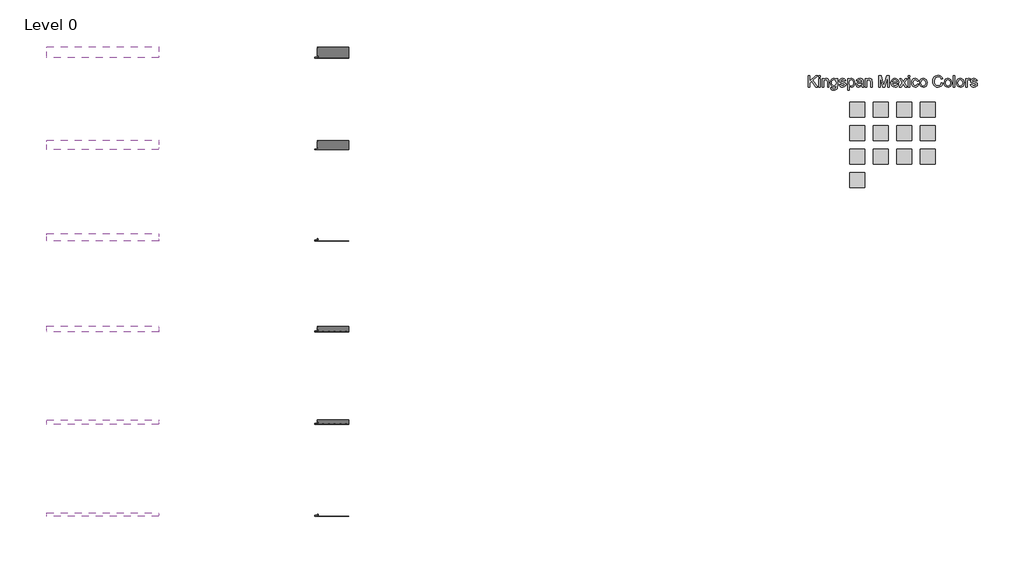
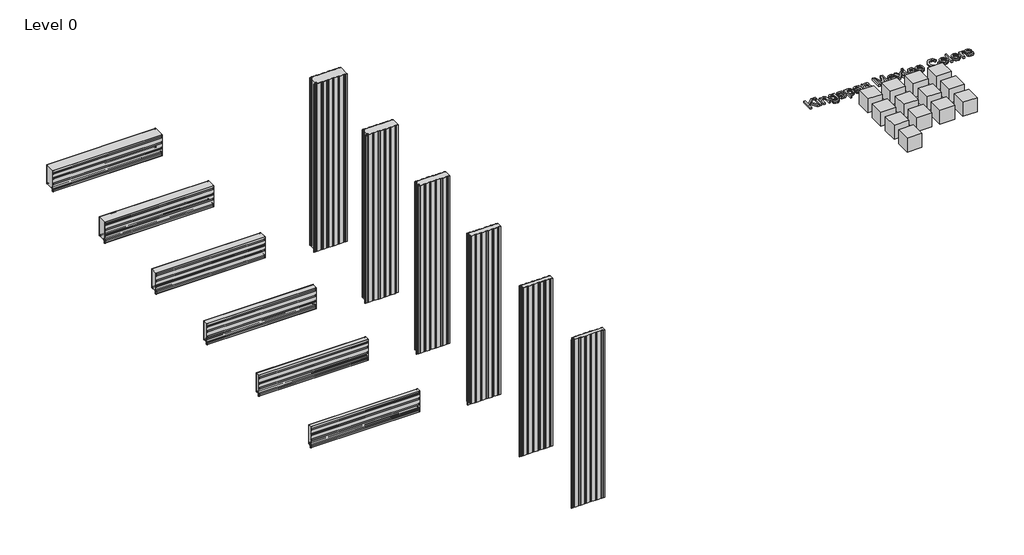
# One storey, incomplete: 14 proxies, 12 plates.
"""IFC4 building model written with IfcOpenShell, lengths in millimetres."""

from ifc_helpers import new_model, si_unit, origin, place, context, project, spatial, transform, mapped, element, save
from components import generic_models_94ed907e, ks_colour_sample_ks_colour_sample_0243efec, hz_050mm_5bb0dca9, hz_060mm_0e53f6a9, hz_075mm_a357266a, hz_100mm_cce7cdb2, hz_125mm_621c7a76, hz_150mm_8d4023c2, vt_050mm_9e8c6ad0, vt_060mm_d385d6ef, vt_075mm_737b0a10, vt_100mm_c336441d, vt_125mm_fb1efc63, vt_150mm_fdc8ce0f

model = new_model("IFC4")

# Units and contexts
model_context = context("Model", 3, world=origin())
ifc_project = project(units=[si_unit("LENGTHUNIT", "METRE", prefix="MILLI")], contexts=[model_context])

# Site, building, storey
site = spatial("IfcSite", under=ifc_project)
building = spatial("IfcBuilding", under=site)
storey = spatial("IfcBuildingStorey", under=building, Name="Level 0", Elevation=0.0)

# Proxies
placement = place(None, origin())
generic_models_shape = generic_models_94ed907e(model_context)
element("IfcBuildingElementProxy", 1, Name="KIP-MX_ColourRange_English : KIP-MX_ColourRange_English", ObjectType="KIP-MX_ColourRange_English : KIP-MX_ColourRange_English", at=placement, inside=storey, context=model_context, shape_type="MappedRepresentation", body=[
    mapped(generic_models_shape, transform((1966.0629502, 11802.7493823, 0.0), x_axis=(1.0, 0.0, 0.0), y_axis=(0.0, 1.0, 0.0), z_axis=(0.0, 0.0, 1.0))),
])
ks_colour_sample_ks_colour_sample_shape = ks_colour_sample_ks_colour_sample_0243efec(model_context)
element("IfcBuildingElementProxy", 2, Name="KS_Colour Sample : KS_Colour Sample", ObjectType="KS_Colour Sample : KS_Colour Sample", at=placement, inside=storey, context=model_context, shape_type="MappedRepresentation", body=[
    mapped(ks_colour_sample_ks_colour_sample_shape, transform((1501.0629502, 13781.2299273, 0.0), x_axis=(1.0, 0.0, 0.0), y_axis=(0.0, 1.0, 0.0), z_axis=(0.0, 0.0, 1.0))),
])
element("IfcBuildingElementProxy", 3, Name="KS_Colour Sample : KS_Colour Sample", ObjectType="KS_Colour Sample : KS_Colour Sample", at=placement, inside=storey, context=model_context, shape_type="MappedRepresentation", body=[
    mapped(ks_colour_sample_ks_colour_sample_shape, transform((1811.0629502, 13781.2299273, 0.0), x_axis=(1.0, 0.0, 0.0), y_axis=(0.0, 1.0, 0.0), z_axis=(0.0, 0.0, 1.0))),
])
element("IfcBuildingElementProxy", 4, Name="KS_Colour Sample : KS_Colour Sample", ObjectType="KS_Colour Sample : KS_Colour Sample", at=placement, inside=storey, context=model_context, shape_type="MappedRepresentation", body=[
    mapped(ks_colour_sample_ks_colour_sample_shape, transform((2121.0629502, 13781.2299273, 0.0), x_axis=(1.0, 0.0, 0.0), y_axis=(0.0, 1.0, 0.0), z_axis=(0.0, 0.0, 1.0))),
])
element("IfcBuildingElementProxy", 5, Name="KS_Colour Sample : KS_Colour Sample", ObjectType="KS_Colour Sample : KS_Colour Sample", at=placement, inside=storey, context=model_context, shape_type="MappedRepresentation", body=[
    mapped(ks_colour_sample_ks_colour_sample_shape, transform((2431.0629502, 13781.2299273, 0.0), x_axis=(1.0, 0.0, 0.0), y_axis=(0.0, 1.0, 0.0), z_axis=(0.0, 0.0, 1.0))),
])
element("IfcBuildingElementProxy", 6, Name="KS_Colour Sample : KS_Colour Sample", ObjectType="KS_Colour Sample : KS_Colour Sample", at=placement, inside=storey, context=model_context, shape_type="MappedRepresentation", body=[
    mapped(ks_colour_sample_ks_colour_sample_shape, transform((1501.0629502, 13471.2299273, 0.0), x_axis=(1.0, 0.0, 0.0), y_axis=(0.0, 1.0, 0.0), z_axis=(0.0, 0.0, 1.0))),
])
element("IfcBuildingElementProxy", 7, Name="KS_Colour Sample : KS_Colour Sample", ObjectType="KS_Colour Sample : KS_Colour Sample", at=placement, inside=storey, context=model_context, shape_type="MappedRepresentation", body=[
    mapped(ks_colour_sample_ks_colour_sample_shape, transform((1811.0629502, 13471.2299273, 0.0), x_axis=(1.0, 0.0, 0.0), y_axis=(0.0, 1.0, 0.0), z_axis=(0.0, 0.0, 1.0))),
])
element("IfcBuildingElementProxy", 8, Name="KS_Colour Sample : KS_Colour Sample", ObjectType="KS_Colour Sample : KS_Colour Sample", at=placement, inside=storey, context=model_context, shape_type="MappedRepresentation", body=[
    mapped(ks_colour_sample_ks_colour_sample_shape, transform((2121.0629502, 13471.2299273, 0.0), x_axis=(1.0, 0.0, 0.0), y_axis=(0.0, 1.0, 0.0), z_axis=(0.0, 0.0, 1.0))),
])
element("IfcBuildingElementProxy", 9, Name="KS_Colour Sample : KS_Colour Sample", ObjectType="KS_Colour Sample : KS_Colour Sample", at=placement, inside=storey, context=model_context, shape_type="MappedRepresentation", body=[
    mapped(ks_colour_sample_ks_colour_sample_shape, transform((2431.0629502, 13471.2299273, 0.0), x_axis=(1.0, 0.0, 0.0), y_axis=(0.0, 1.0, 0.0), z_axis=(0.0, 0.0, 1.0))),
])
element("IfcBuildingElementProxy", 10, Name="KS_Colour Sample : KS_Colour Sample", ObjectType="KS_Colour Sample : KS_Colour Sample", at=placement, inside=storey, context=model_context, shape_type="MappedRepresentation", body=[
    mapped(ks_colour_sample_ks_colour_sample_shape, transform((1501.0629502, 13161.2299273, 0.0), x_axis=(1.0, 0.0, 0.0), y_axis=(0.0, 1.0, 0.0), z_axis=(0.0, 0.0, 1.0))),
])
element("IfcBuildingElementProxy", 11, Name="KS_Colour Sample : KS_Colour Sample", ObjectType="KS_Colour Sample : KS_Colour Sample", at=placement, inside=storey, context=model_context, shape_type="MappedRepresentation", body=[
    mapped(ks_colour_sample_ks_colour_sample_shape, transform((1811.0629502, 13161.2299273, 0.0), x_axis=(1.0, 0.0, 0.0), y_axis=(0.0, 1.0, 0.0), z_axis=(0.0, 0.0, 1.0))),
])
element("IfcBuildingElementProxy", 12, Name="KS_Colour Sample : KS_Colour Sample", ObjectType="KS_Colour Sample : KS_Colour Sample", at=placement, inside=storey, context=model_context, shape_type="MappedRepresentation", body=[
    mapped(ks_colour_sample_ks_colour_sample_shape, transform((2121.0629502, 13161.2299273, 0.0), x_axis=(1.0, 0.0, 0.0), y_axis=(0.0, 1.0, 0.0), z_axis=(0.0, 0.0, 1.0))),
])
element("IfcBuildingElementProxy", 13, Name="KS_Colour Sample : KS_Colour Sample", ObjectType="KS_Colour Sample : KS_Colour Sample", at=placement, inside=storey, context=model_context, shape_type="MappedRepresentation", body=[
    mapped(ks_colour_sample_ks_colour_sample_shape, transform((2431.0629502, 13161.2299273, 0.0), x_axis=(1.0, 0.0, 0.0), y_axis=(0.0, 1.0, 0.0), z_axis=(0.0, 0.0, 1.0))),
])
element("IfcBuildingElementProxy", 14, Name="KS_Colour Sample : KS_Colour Sample", ObjectType="KS_Colour Sample : KS_Colour Sample", at=placement, inside=storey, context=model_context, shape_type="MappedRepresentation", body=[
    mapped(ks_colour_sample_ks_colour_sample_shape, transform((1501.0629502, 12851.2299273, 0.0), x_axis=(1.0, 0.0, 0.0), y_axis=(0.0, 1.0, 0.0), z_axis=(0.0, 0.0, 1.0))),
])

# Plates
hz_050mm_shape = hz_050mm_5bb0dca9(model_context)
element("IfcPlate", 15, ObjectType="KIP-MEX-KSS-1067-R19-CP-Hz-SL_SL : Hz 050mm", at=placement, inside=storey, context=model_context, shape_type="MappedRepresentation", body=[
    mapped(hz_050mm_shape, transform((-8438.7250935, 8468.7418563, 2134.0), x_axis=(1.0, 0.0, 0.0), y_axis=(0.0, 1.0, 0.0), z_axis=(0.0, 0.0, 1.0))),
])
hz_060mm_shape = hz_060mm_0e53f6a9(model_context)
element("IfcPlate", 16, ObjectType="KIP-MEX-KSS-1067-R19-CP-Hz-SL_SL : Hz 060mm", at=placement, inside=storey, context=model_context, shape_type="MappedRepresentation", body=[
    mapped(hz_060mm_shape, transform((-8438.7250935, 9693.0962077, 2134.0), x_axis=(1.0, 0.0, 0.0), y_axis=(0.0, 1.0, 0.0), z_axis=(0.0, 0.0, 1.0))),
])
hz_075mm_shape = hz_075mm_a357266a(model_context)
element("IfcPlate", 17, ObjectType="KIP-MEX-KSS-1067-R19-CP-Hz-SL_SL : Hz 075mm", at=placement, inside=storey, context=model_context, shape_type="MappedRepresentation", body=[
    mapped(hz_075mm_shape, transform((-8438.7250935, 10927.2962077, 2134.0), x_axis=(1.0, 0.0, 0.0), y_axis=(0.0, 1.0, 0.0), z_axis=(0.0, 0.0, 1.0))),
])
hz_100mm_shape = hz_100mm_cce7cdb2(model_context)
element("IfcPlate", 18, ObjectType="KIP-MEX-KSS-1067-R19-CP-Hz-SL_SL : Hz 100mm", at=placement, inside=storey, context=model_context, shape_type="MappedRepresentation", body=[
    mapped(hz_100mm_shape, transform((-8438.7250935, 12150.3733554, 2134.0), x_axis=(1.0, 0.0, 0.0), y_axis=(0.0, 1.0, 0.0), z_axis=(0.0, 0.0, 1.0))),
])
hz_125mm_shape = hz_125mm_621c7a76(model_context)
element("IfcPlate", 19, ObjectType="KIP-MEX-KSS-1067-R19-CP-Hz-SL_SL : Hz 125mm", at=placement, inside=storey, context=model_context, shape_type="MappedRepresentation", body=[
    mapped(hz_125mm_shape, transform((-8438.7250935, 13377.5488626, 2134.0), x_axis=(1.0, 0.0, 0.0), y_axis=(0.0, 1.0, 0.0), z_axis=(0.0, 0.0, 1.0))),
])
hz_150mm_shape = hz_150mm_8d4023c2(model_context)
element("IfcPlate", 20, ObjectType="KIP-MEX-KSS-1067-R19-CP-Hz-SL_SL : Hz 150mm", at=placement, inside=storey, context=model_context, shape_type="MappedRepresentation", body=[
    mapped(hz_150mm_shape, transform((-8438.7250935, 14614.4207339, 2134.0), x_axis=(1.0, 0.0, 0.0), y_axis=(0.0, 1.0, 0.0), z_axis=(0.0, 0.0, 1.0))),
])
vt_050mm_shape = vt_050mm_9e8c6ad0(model_context)
element("IfcPlate", 21, ObjectType="KIP-MEX-KSS-1067-R19-CP-Vt-SL_SL : Vt 050mm", at=placement, inside=storey, context=model_context, shape_type="MappedRepresentation", body=[
    mapped(vt_050mm_shape, transform((-5405.4413834, 8468.7418563, 0.0), x_axis=(1.0, 0.0, 0.0), y_axis=(0.0, 1.0, 0.0), z_axis=(0.0, 0.0, 1.0))),
])
vt_060mm_shape = vt_060mm_d385d6ef(model_context)
element("IfcPlate", 22, ObjectType="KIP-MEX-KSS-1067-R19-CP-Vt-SL_SL : Vt 060mm", at=placement, inside=storey, context=model_context, shape_type="MappedRepresentation", body=[
    mapped(vt_060mm_shape, transform((-5405.4413834, 9693.0962077, 0.0), x_axis=(1.0, 0.0, 0.0), y_axis=(0.0, 1.0, 0.0), z_axis=(0.0, 0.0, 1.0))),
])
vt_075mm_shape = vt_075mm_737b0a10(model_context)
element("IfcPlate", 23, ObjectType="KIP-MEX-KSS-1067-R19-CP-Vt-SL_SL : Vt 075mm", at=placement, inside=storey, context=model_context, shape_type="MappedRepresentation", body=[
    mapped(vt_075mm_shape, transform((-5405.4413834, 10927.2962077, 0.0), x_axis=(1.0, 0.0, 0.0), y_axis=(0.0, 1.0, 0.0), z_axis=(0.0, 0.0, 1.0))),
])
vt_100mm_shape = vt_100mm_c336441d(model_context)
element("IfcPlate", 24, ObjectType="KIP-MEX-KSS-1067-R19-CP-Vt-SL_SL : Vt 100mm", at=placement, inside=storey, context=model_context, shape_type="MappedRepresentation", body=[
    mapped(vt_100mm_shape, transform((-5405.4413834, 12150.3733554, 0.0), x_axis=(1.0, 0.0, 0.0), y_axis=(0.0, 1.0, 0.0), z_axis=(0.0, 0.0, 1.0))),
])
vt_125mm_shape = vt_125mm_fb1efc63(model_context)
element("IfcPlate", 25, ObjectType="KIP-MEX-KSS-1067-R19-CP-Vt-SL_SL : Vt 125mm", at=placement, inside=storey, context=model_context, shape_type="MappedRepresentation", body=[
    mapped(vt_125mm_shape, transform((-5405.4413834, 13377.5488626, 0.0), x_axis=(1.0, 0.0, 0.0), y_axis=(0.0, 1.0, 0.0), z_axis=(0.0, 0.0, 1.0))),
])
vt_150mm_shape = vt_150mm_fdc8ce0f(model_context)
element("IfcPlate", 26, ObjectType="KIP-MEX-KSS-1067-R19-CP-Vt-SL_SL : Vt 150mm", at=placement, inside=storey, context=model_context, shape_type="MappedRepresentation", body=[
    mapped(vt_150mm_shape, transform((-5405.4413834, 14609.2486688, 0.0), x_axis=(1.0, 0.0, 0.0), y_axis=(0.0, 1.0, 0.0), z_axis=(0.0, 0.0, 1.0))),
])

save(model, "model.ifc")
